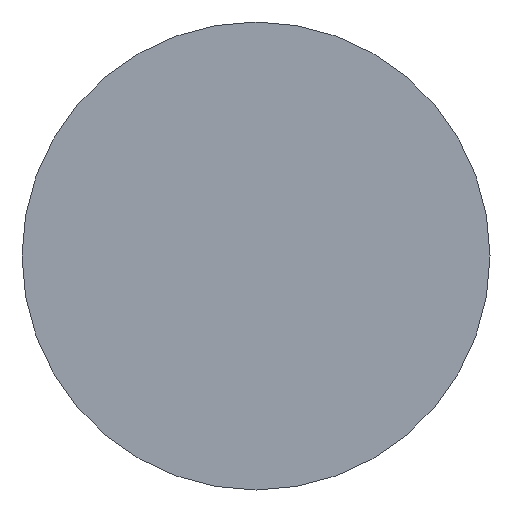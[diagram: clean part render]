
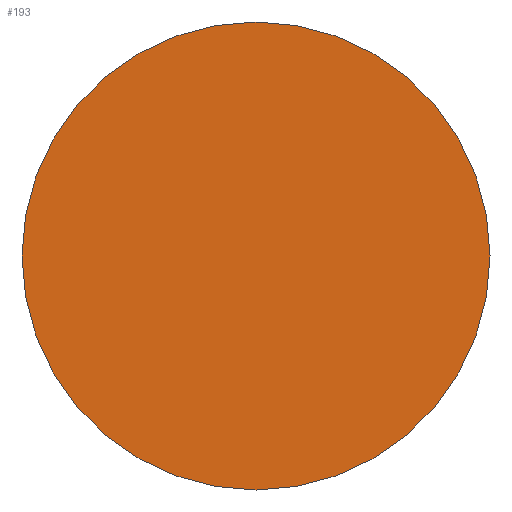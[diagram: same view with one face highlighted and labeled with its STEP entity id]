
A CAD part, left-side view. The second image highlights one B-rep face of the part: STEP entity #193.
In plain terms, the highlighted planar face has unit normal (-1, 0, 0).
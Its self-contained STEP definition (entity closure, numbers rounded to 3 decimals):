
#1 = ORIENTED_EDGE ( 'NONE', *, *, #58, .F. ) ;
#21 = AXIS2_PLACEMENT_3D ( 'NONE', #66, #169, #234 ) ;
#25 = CARTESIAN_POINT ( 'NONE',  ( 0., 0., 0. ) ) ;
#58 = EDGE_CURVE ( 'NONE', #119, #87, #60, .T. ) ;
#60 = CIRCLE ( 'NONE', #21, 2. ) ;
#65 = DIRECTION ( 'NONE',  ( -1., 0., 0. ) ) ;
#66 = CARTESIAN_POINT ( 'NONE',  ( 0., 0., 0. ) ) ;
#87 = VERTEX_POINT ( 'NONE', #183 ) ;
#89 = DIRECTION ( 'NONE',  ( 0., 1., 0. ) ) ;
#101 = DIRECTION ( 'NONE',  ( 0., -1., 0. ) ) ;
#119 = VERTEX_POINT ( 'NONE', #217 ) ;
#122 = FACE_OUTER_BOUND ( 'NONE', #253, .T. ) ;
#135 = PLANE ( 'NONE',  #179 ) ;
#136 = DIRECTION ( 'NONE',  ( 1., 0., 0. ) ) ;
#142 = AXIS2_PLACEMENT_3D ( 'NONE', #164, #136, #89 ) ;
#164 = CARTESIAN_POINT ( 'NONE',  ( 0., 0., 0. ) ) ;
#167 = ORIENTED_EDGE ( 'NONE', *, *, #257, .F. ) ;
#169 = DIRECTION ( 'NONE',  ( 1., 0., 0. ) ) ;
#179 = AXIS2_PLACEMENT_3D ( 'NONE', #25, #65, #101 ) ;
#183 = CARTESIAN_POINT ( 'NONE',  ( 0., 2., 0. ) ) ;
#193 = ADVANCED_FACE ( 'NONE', ( #122 ), #135, .T. ) ;
#217 = CARTESIAN_POINT ( 'NONE',  ( 0., -2., 0. ) ) ;
#234 = DIRECTION ( 'NONE',  ( 0., 1., 0. ) ) ;
#235 = CIRCLE ( 'NONE', #142, 2. ) ;
#253 = EDGE_LOOP ( 'NONE', ( #167, #1 ) ) ;
#257 = EDGE_CURVE ( 'NONE', #87, #119, #235, .T. ) ;
